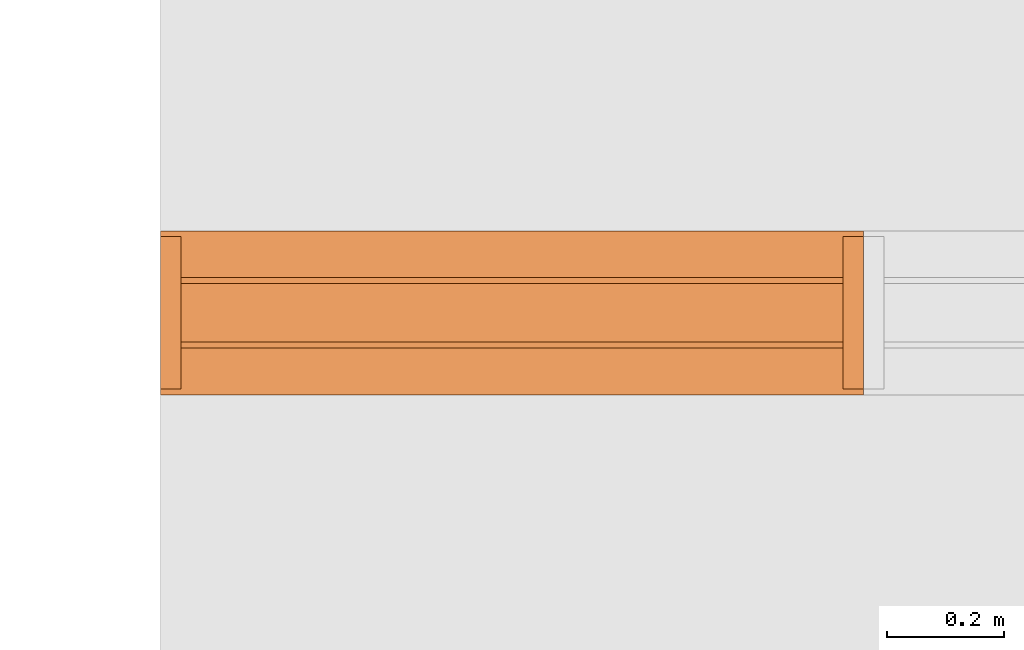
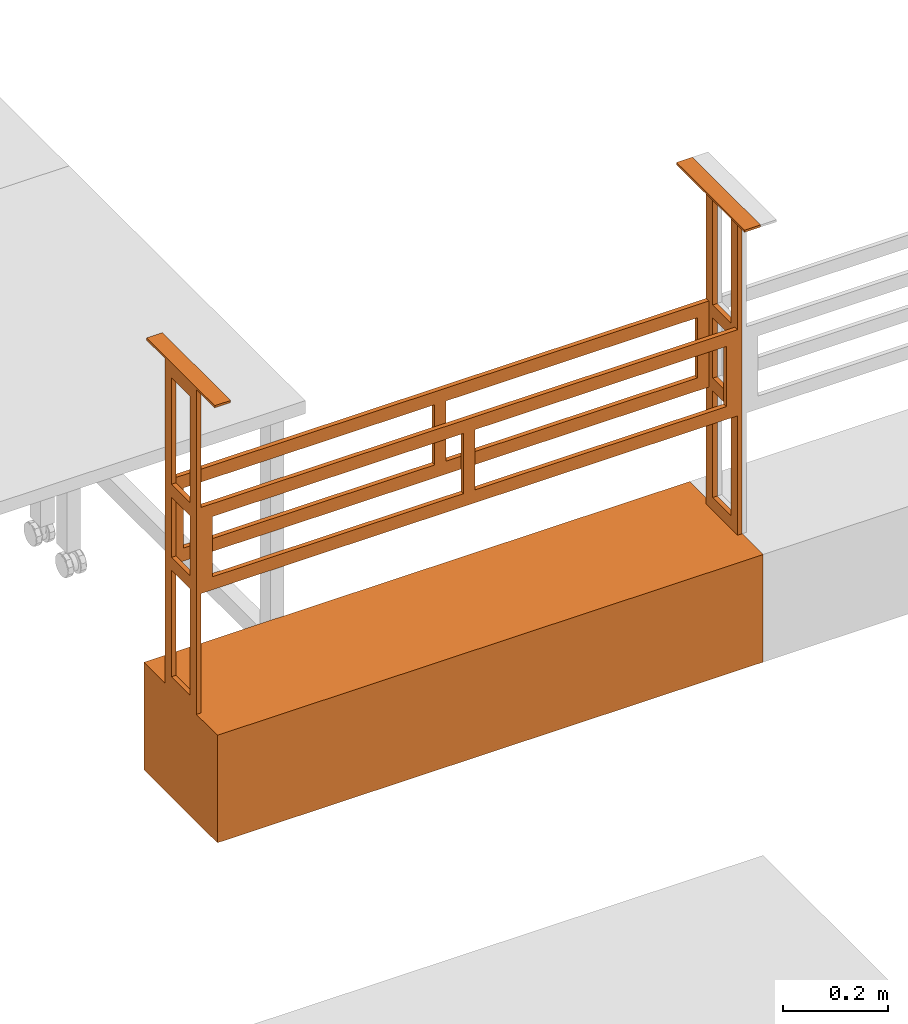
# One storey, part 12 of 32: 1 proxy.
"""IFC2X3 building model written with IfcOpenShell, lengths in metres."""

import ifcopenshell
import ifcopenshell.guid

model = None  # the IFC model being written
_history = None  # IfcOwnerHistory: only IFC2X3 demands one
_inside = {}  # id of a spatial element -> (the spatial element, [elements in it])
_under = {}  # id of a project, library or spatial element -> (it, [spatial elements below it])
_declared = {}  # id of a project -> (the project, [libraries it declares])
_typed = {}  # id of a type object -> (the type object, [elements of that type])
_made_of = {}  # id of a material, layer set ... -> (it, [elements and type objects made of it])


def new_model(schema):
    """Start an empty IFC model of exactly this schema.

    Asked for "IFC4X3", IfcOpenShell would pick the latest addendum, in which some entities
    have other attributes; the version numbers below select the first issue.
    IFC2X3 requires an IfcOwnerHistory on every rooted entity: one is made here for all.
    """
    global model, _history
    if schema == "IFC4X3":
        model = ifcopenshell.file(schema_version=(4, 3, 0, 0))
    else:
        model = ifcopenshell.file(schema=schema)
    _inside.clear()
    _under.clear()
    _declared.clear()
    _typed.clear()
    _made_of.clear()
    _history = None
    if model.schema == "IFC2X3":
        org = make("IfcOrganization", Name="unknown")
        user = make(
            "IfcPersonAndOrganization",
            ThePerson=make("IfcPerson", FamilyName="unknown"),
            TheOrganization=org,
        )
        app = make(
            "IfcApplication",
            ApplicationDeveloper=org,
            Version="unknown",
            ApplicationFullName="unknown",
            ApplicationIdentifier="unknown",
        )
        _history = make(
            "IfcOwnerHistory",
            OwningUser=user,
            OwningApplication=app,
            ChangeAction="ADDED",
            CreationDate=0,
        )
    return model


def make(cls, **values):
    """One entity of the class cls with the attributes given. An attribute that is None is left unset."""
    return model.create_entity(
        cls, **{name: value for name, value in values.items() if value is not None}
    )


def entity(cls, *values):
    """Any entity or typed value of the class cls, its attributes in the order of the schema. None: left unset."""
    e = model.create_entity(cls)
    for i, value in enumerate(values):
        if value is not None:
            e[i] = value
    return e


def rooted(cls, **values):
    """An entity with a GlobalId (a new one), such as an element, a storey or a relation."""
    return make(cls, GlobalId=ifcopenshell.guid.new(), OwnerHistory=_history, **values)


def si_unit(unit_type, name, prefix=None):
    """IfcSIUnit, for example si_unit("LENGTHUNIT", "METRE", prefix="MILLI")."""
    return make("IfcSIUnit", UnitType=unit_type, Prefix=prefix, Name=name)


def converted_unit(unit_type, name, factor, base, dimensions=None, offset=None):
    """IfcConversionBasedUnit, such as the inch: factor (a typed value) times the base unit."""
    return make(
        "IfcConversionBasedUnit"
        if offset is None
        else "IfcConversionBasedUnitWithOffset",
        ConversionOffset=offset,
        Dimensions=None
        if dimensions is None
        else entity("IfcDimensionalExponents", *dimensions),
        UnitType=unit_type,
        Name=name,
        ConversionFactor=make(
            "IfcMeasureWithUnit", ValueComponent=factor, UnitComponent=base
        ),
    )


def derived_unit(unit_type, elements):
    """IfcDerivedUnit: a product of units, each with its exponent."""
    return make(
        "IfcDerivedUnit",
        Elements=[
            make("IfcDerivedUnitElement", Unit=unit, Exponent=power)
            for unit, power in elements
        ],
        UnitType=unit_type,
    )


def assignment(units):
    """IfcUnitAssignment: the units of a project."""
    return None if units is None else make("IfcUnitAssignment", Units=units)


def point(xyz):
    """IfcCartesianPoint."""
    return None if xyz is None else make("IfcCartesianPoint", Coordinates=xyz)


def direction(xyz):
    """IfcDirection."""
    return None if xyz is None else make("IfcDirection", DirectionRatios=xyz)


def frame(location, z_axis=None, x_axis=None):
    """IfcAxis2Placement3D, a coordinate frame: its origin and axes. An axis left out is left unset."""
    return make(
        "IfcAxis2Placement3D",
        Location=point(location),
        Axis=direction(z_axis),
        RefDirection=direction(x_axis),
    )


def origin():
    """The frame at (0, 0, 0) with its axes left unset."""
    return frame((0.0, 0.0, 0.0))


def place(relative_to, where):
    """IfcLocalPlacement: puts the frame where relative to a parent placement (None: the world)."""
    return make(
        "IfcLocalPlacement", PlacementRelTo=relative_to, RelativePlacement=where
    )


def context(
    kind, dimensions, precision=None, world=None, true_north=None, identifier=None
):
    """IfcGeometricRepresentationContext, for example the 3D "Model" context."""
    return make(
        "IfcGeometricRepresentationContext",
        ContextIdentifier=identifier,
        ContextType=kind,
        CoordinateSpaceDimension=dimensions,
        Precision=precision,
        WorldCoordinateSystem=world,
        TrueNorth=true_north,
    )


def subcontext(parent, identifier, kind, view, scale=None):
    """IfcGeometricRepresentationSubContext, for example "Body" below "Model"."""
    return make(
        "IfcGeometricRepresentationSubContext",
        ContextIdentifier=identifier,
        ContextType=kind,
        ParentContext=parent,
        TargetScale=scale,
        TargetView=view,
    )


def project(units=None, contexts=None):
    """IfcProject with its units and contexts."""
    return rooted(
        "IfcProject",
        Name="project",
        RepresentationContexts=contexts,
        UnitsInContext=assignment(units),
    )


def spatial(cls, under=None, at=None, **own):
    """A site, building, storey or space (cls), placed at a placement, below another one or the project."""
    s = rooted(cls, ObjectPlacement=at, **own)
    if under is not None:
        _under.setdefault(under.id(), (under, []))[1].append(s)
    return s


def faces_of(points, faces, orient=None, outer=None):
    """IfcFace entities. A face is a list of loops; a loop is a list of indices into points, from 0.

    orient and outer hold one flag for each loop. By default every Orientation is true, the
    first loop of a face is its IfcFaceOuterBound and the others are IfcFaceBound.
    """
    made = []
    for i, loops in enumerate(faces):
        bounds = []
        for j, loop in enumerate(loops):
            is_outer = j == 0 if outer is None else outer[i][j]
            bounds.append(
                make(
                    "IfcFaceOuterBound" if is_outer else "IfcFaceBound",
                    Bound=make("IfcPolyLoop", Polygon=[points[k] for k in loop]),
                    Orientation=True if orient is None else orient[i][j],
                )
            )
        made.append(make("IfcFace", Bounds=bounds))
    return made


def faceted_brep(points, faces, orient=None, outer=None, voids=None):
    """IfcFacetedBrep: a solid bounded by flat faces; with voids (closed shells), ...WithVoids."""
    shared = [point(p) for p in points]
    hull = make("IfcClosedShell", CfsFaces=faces_of(shared, faces, orient, outer))
    if voids is None:
        return make("IfcFacetedBrep", Outer=hull)
    return make(
        "IfcFacetedBrepWithVoids",
        Outer=hull,
        Voids=[
            make(cls, CfsFaces=faces_of(shared, fs, o, b)) for cls, fs, o, b in voids
        ],
    )


def shape(context_of_items, identifier, shape_type, items):
    """IfcShapeRepresentation: the items that make up one representation, for example the "Body"."""
    return make(
        "IfcShapeRepresentation",
        ContextOfItems=context_of_items,
        RepresentationIdentifier=identifier,
        RepresentationType=shape_type,
        Items=items,
    )


def source(mapping_origin, context_of_items, identifier, shape_type, items):
    """IfcRepresentationMap: a shape defined once, which mapped items show again and again."""
    return make(
        "IfcRepresentationMap",
        MappingOrigin=mapping_origin,
        MappedRepresentation=shape(context_of_items, identifier, shape_type, items),
    )


def transform(
    local_origin,
    x_axis=None,
    y_axis=None,
    z_axis=None,
    scale=None,
    scale2=None,
    scale3=None,
    uniform=True,
):
    """IfcCartesianTransformationOperator3D, or its non-uniform kind. x_axis, y_axis, z_axis: its Axis1, 2, 3."""
    if uniform:
        return make(
            "IfcCartesianTransformationOperator3D",
            Axis1=direction(x_axis),
            Axis2=direction(y_axis),
            LocalOrigin=point(local_origin),
            Scale=scale,
            Axis3=direction(z_axis),
        )
    return make(
        "IfcCartesianTransformationOperator3DnonUniform",
        Axis1=direction(x_axis),
        Axis2=direction(y_axis),
        LocalOrigin=point(local_origin),
        Scale=scale,
        Axis3=direction(z_axis),
        Scale2=scale2,
        Scale3=scale3,
    )


def mapped(mapping_source, mapping_target):
    """IfcMappedItem: shows the shape of a source again, moved by a transform."""
    return make(
        "IfcMappedItem", MappingSource=mapping_source, MappingTarget=mapping_target
    )


def material(Name=None, Category=None):
    """IfcMaterial."""
    return make("IfcMaterial", Name=Name, Category=Category)


def material_list(materials):
    """IfcMaterialList."""
    return make("IfcMaterialList", Materials=materials)


def made_of(thing, what):
    """Note that an element or type object is made of a material, layer set ...; save() writes the relation."""
    if what is not None:
        _made_of.setdefault(what.id(), (what, []))[1].append(thing)
    return thing


def type_object(cls, material=None, **own):
    """A type object (cls), such as IfcWallType, which elements share."""
    return made_of(rooted(cls, **own), material)


def type_shapes(of_type, sources):
    """Give a type object the sources (RepresentationMaps) that its elements show as mapped items."""
    of_type.RepresentationMaps = sources


def element(
    cls,
    number,
    at=None,
    inside=None,
    cuts=None,
    type_object=None,
    material=None,
    context=None,
    identifier="Body",
    shape_type=None,
    held_by="IfcProductDefinitionShape",
    body=None,
    shapes=None,
    **own,
):
    """One element of the class cls, such as IfcWall. Its Tag is "e" and its number.

    at: its placement. inside: the storey or other place that contains it. cuts: it is an
    opening in that element (IfcRelVoidsElement). A single representation is given by context,
    identifier, shape_type and body (its items); several are given by shapes. held_by: the class
    of the entity that holds the representations. save() writes the other relations.
    """
    e = rooted(cls, Tag="e%d" % number, ObjectPlacement=at, **own)
    if body is not None:
        shapes = [shape(context, identifier, shape_type, body)]
    if shapes is not None:
        e.Representation = make(held_by, Representations=shapes)
    if inside is not None:
        _inside.setdefault(inside.id(), (inside, []))[1].append(e)
    if cuts is not None:
        rooted(
            "IfcRelVoidsElement", RelatingBuildingElement=cuts, RelatedOpeningElement=e
        )
    if type_object is not None:
        _typed.setdefault(type_object.id(), (type_object, []))[1].append(e)
    return made_of(e, material)


def aggregate(whole, parts):
    """IfcRelAggregates: a whole, such as a stair, and the parts it consists of."""
    return rooted("IfcRelAggregates", RelatingObject=whole, RelatedObjects=parts)


def save(model, path):
    """Write the relations noted so far, then the file.

    IfcRelAggregates (storeys below a building ...), IfcRelContainedInSpatialStructure (elements
    in a storey), IfcRelDefinesByType, IfcRelAssociatesMaterial and IfcRelDeclares: one each for
    every whole, place, type object, material and project.
    """
    for whole, parts in _under.values():
        aggregate(whole, parts)
    for where, things in _inside.values():
        rooted(
            "IfcRelContainedInSpatialStructure",
            RelatedElements=things,
            RelatingStructure=where,
        )
    for kind, things in _typed.values():
        rooted("IfcRelDefinesByType", RelatedObjects=things, RelatingType=kind)
    for what, things in _made_of.values():
        rooted("IfcRelAssociatesMaterial", RelatedObjects=things, RelatingMaterial=what)
    for by, libraries in _declared.values():
        rooted("IfcRelDeclares", RelatingContext=by, RelatedDefinitions=libraries)
    model.write(path)


model = new_model("IFC2X3")

# Units and contexts
model_context = context("Model", 3, precision=1e-05, world=origin(), true_north=direction((6.12303176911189e-17, 1.0)))
body_context = subcontext(model_context, "Body", "Model", "MODEL_VIEW")
ifc_project = project(units=[si_unit("LENGTHUNIT", "METRE"), si_unit("AREAUNIT", "SQUARE_METRE"), si_unit("VOLUMEUNIT", "CUBIC_METRE"), converted_unit("PLANEANGLEUNIT", "DEGREE", entity("IfcRatioMeasure", 0.0174532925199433), si_unit("PLANEANGLEUNIT", "RADIAN"), dimensions=[0, 0, 0, 0, 0, 0, 0]), si_unit("MASSUNIT", "GRAM", prefix="KILO"), derived_unit("MASSDENSITYUNIT", [(si_unit("MASSUNIT", "GRAM", prefix="KILO"), 1), (si_unit("LENGTHUNIT", "METRE"), -3)]), derived_unit("MOMENTOFINERTIAUNIT", [(si_unit("LENGTHUNIT", "METRE"), 4)]), si_unit("TIMEUNIT", "SECOND"), si_unit("FREQUENCYUNIT", "HERTZ"), si_unit("THERMODYNAMICTEMPERATUREUNIT", "DEGREE_CELSIUS"), derived_unit("THERMALTRANSMITTANCEUNIT", [(si_unit("MASSUNIT", "GRAM", prefix="KILO"), 1), (si_unit("THERMODYNAMICTEMPERATUREUNIT", "KELVIN"), -1), (si_unit("TIMEUNIT", "SECOND"), -3)]), derived_unit("VOLUMETRICFLOWRATEUNIT", [(si_unit("LENGTHUNIT", "METRE"), 3), (si_unit("TIMEUNIT", "SECOND"), -1)]), si_unit("ELECTRICCURRENTUNIT", "AMPERE"), si_unit("ELECTRICVOLTAGEUNIT", "VOLT"), si_unit("POWERUNIT", "WATT"), si_unit("FORCEUNIT", "NEWTON", prefix="KILO"), si_unit("ILLUMINANCEUNIT", "LUX"), si_unit("LUMINOUSFLUXUNIT", "LUMEN"), si_unit("LUMINOUSINTENSITYUNIT", "CANDELA"), derived_unit("USERDEFINED", [(si_unit("MASSUNIT", "GRAM", prefix="KILO"), -1), (si_unit("LENGTHUNIT", "METRE"), -2), (si_unit("TIMEUNIT", "SECOND"), 3), (si_unit("LUMINOUSFLUXUNIT", "LUMEN"), 1)]), derived_unit("LINEARVELOCITYUNIT", [(si_unit("LENGTHUNIT", "METRE"), 1), (si_unit("TIMEUNIT", "SECOND"), -1)]), si_unit("PRESSUREUNIT", "PASCAL"), derived_unit("USERDEFINED", [(si_unit("LENGTHUNIT", "METRE"), -2), (si_unit("MASSUNIT", "GRAM", prefix="KILO"), 1), (si_unit("TIMEUNIT", "SECOND"), -2)]), derived_unit("LINEARFORCEUNIT", [(si_unit("MASSUNIT", "GRAM", prefix="KILO"), 1), (si_unit("LENGTHUNIT", "METRE"), 1), (si_unit("TIMEUNIT", "SECOND"), -2), (si_unit("LENGTHUNIT", "METRE"), -1)]), derived_unit("PLANARFORCEUNIT", [(si_unit("MASSUNIT", "GRAM", prefix="KILO"), 1), (si_unit("LENGTHUNIT", "METRE"), 1), (si_unit("TIMEUNIT", "SECOND"), -2), (si_unit("LENGTHUNIT", "METRE"), -2)])], contexts=[model_context])

# Site, building, storey
site_placement = place(None, origin())
site = spatial("IfcSite", under=ifc_project, at=site_placement, Name="Default", CompositionType="ELEMENT")
building_placement = place(site_placement, origin())
building = spatial("IfcBuilding", under=site, at=building_placement, CompositionType="ELEMENT")
storey_placement = place(building_placement, origin())
storey = spatial("IfcBuildingStorey", under=building, at=storey_placement, Name="00 EG", CompositionType="ELEMENT", Elevation=0.0)

# Proxy
ifc_material = material(Name="dh_Weiß")
ifc_material_list = material_list([ifc_material, ifc_material])
building_element_proxy_type = type_object("IfcBuildingElementProxyType", Name="dh_Doppel_ MEK:DMEK 120", PredefinedType="NOTDEFINED", material=ifc_material_list)
shared_shape = source(origin(), body_context, "Body", "Brep", [
    faceted_brep([(0.0100000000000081, 0.2, 1.00500000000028), (0.0100000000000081, 0.0800000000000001, 1.00500000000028), (0.0100000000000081, 0.0800000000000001, 0.727500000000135), (0.0100000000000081, 0.0899999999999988, 0.727500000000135), (0.0100000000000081, 0.0899999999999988, 0.527500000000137), (0.0100000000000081, 0.0800000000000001, 0.527500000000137), (0.0100000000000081, 0.0800000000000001, 0.249999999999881), (0.0100000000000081, 0.2, 0.249999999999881), (0.0100000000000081, 0.2, 0.527500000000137), (0.0100000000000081, 0.189999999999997, 0.527500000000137), (0.0100000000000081, 0.189999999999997, 0.727500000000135), (0.0100000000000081, 0.2, 0.727500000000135), (0.0100000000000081, 0.175, 0.975000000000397), (0.0100000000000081, 0.175, 0.727500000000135), (0.0100000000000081, 0.105, 0.727500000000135), (0.0100000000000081, 0.105, 0.975000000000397), (0.0100000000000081, 0.175, 0.527500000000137), (0.0100000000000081, 0.175, 0.279999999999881), (0.0100000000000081, 0.105, 0.27999999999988), (0.0100000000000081, 0.105, 0.527500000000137), (0.0100000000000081, 0.175000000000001, 0.697500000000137), (0.0100000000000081, 0.175000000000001, 0.557500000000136), (0.0100000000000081, 0.105000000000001, 0.557500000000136), (0.0100000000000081, 0.105000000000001, 0.697500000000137), (0.0, 0.2, 1.00500000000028), (0.0, 0.2, 0.249999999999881), (0.0, 0.0800000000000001, 0.249999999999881), (0.0, 0.0800000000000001, 1.00500000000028), (0.0, 0.175, 0.975000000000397), (0.0, 0.105, 0.975000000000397), (0.0, 0.105, 0.727500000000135), (0.0, 0.175, 0.727500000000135), (0.0, 0.175, 0.527500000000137), (0.0, 0.105, 0.527500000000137), (0.0, 0.105, 0.27999999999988), (0.0, 0.175, 0.279999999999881), (0.0, 0.175000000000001, 0.697500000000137), (0.0, 0.105000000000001, 0.697500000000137), (0.0, 0.105000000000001, 0.557500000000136), (0.0, 0.175000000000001, 0.557500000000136), (1.19000000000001, 0.0800000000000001, 0.527500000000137), (1.19000000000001, 0.0800000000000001, 0.249999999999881), (1.20000000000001, 0.0800000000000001, 0.249999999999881), (1.20000000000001, 0.0800000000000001, 1.00500000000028), (1.19000000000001, 0.0800000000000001, 1.00500000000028), (1.19000000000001, 0.0800000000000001, 0.727500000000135), (0.61250000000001, 0.0800000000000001, 0.697500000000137), (1.16500000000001, 0.0800000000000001, 0.697500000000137), (1.16500000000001, 0.0800000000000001, 0.557500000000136), (0.61250000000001, 0.0800000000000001, 0.557500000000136), (0.0350000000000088, 0.0800000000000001, 0.697500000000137), (0.587500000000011, 0.0800000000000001, 0.697500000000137), (0.587500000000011, 0.0800000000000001, 0.557500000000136), (0.0350000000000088, 0.0800000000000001, 0.557500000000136), (1.19000000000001, 0.2, 0.727500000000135), (1.19000000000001, 0.2, 1.00500000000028), (1.20000000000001, 0.2, 1.00500000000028), (1.20000000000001, 0.2, 0.249999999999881), (1.19000000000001, 0.2, 0.249999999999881), (1.19000000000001, 0.2, 0.527500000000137), (0.0350000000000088, 0.2, 0.697500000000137), (0.0350000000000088, 0.2, 0.557500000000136), (0.587500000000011, 0.2, 0.557500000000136), (0.587500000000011, 0.2, 0.697500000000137), (0.61250000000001, 0.2, 0.697500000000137), (0.61250000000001, 0.2, 0.557500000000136), (1.16500000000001, 0.2, 0.557500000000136), (1.16500000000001, 0.2, 0.697500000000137), (1.19000000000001, 0.0899999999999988, 0.727500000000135), (1.19000000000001, 0.0899999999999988, 0.527500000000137), (0.61250000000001, 0.0899999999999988, 0.697500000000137), (0.61250000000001, 0.0899999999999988, 0.557500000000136), (1.16500000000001, 0.0899999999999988, 0.557500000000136), (1.16500000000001, 0.0899999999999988, 0.697500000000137), (0.0350000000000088, 0.0899999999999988, 0.697500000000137), (0.0350000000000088, 0.0899999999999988, 0.557500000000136), (0.587500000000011, 0.0899999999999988, 0.557500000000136), (0.587500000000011, 0.0899999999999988, 0.697500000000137), (1.19000000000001, 0.189999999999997, 0.527500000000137), (1.19000000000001, 0.189999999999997, 0.727500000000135), (0.0350000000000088, 0.189999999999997, 0.697500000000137), (0.587500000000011, 0.189999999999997, 0.697500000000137), (0.587500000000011, 0.189999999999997, 0.557500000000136), (0.0350000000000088, 0.189999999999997, 0.557500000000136), (0.61250000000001, 0.189999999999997, 0.697500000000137), (1.16500000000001, 0.189999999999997, 0.697500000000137), (1.16500000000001, 0.189999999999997, 0.557500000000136), (0.61250000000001, 0.189999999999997, 0.557500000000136), (1.20000000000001, 0.175, 0.975000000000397), (1.20000000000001, 0.175, 0.727500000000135), (1.20000000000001, 0.105, 0.727500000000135), (1.20000000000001, 0.105, 0.975000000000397), (1.20000000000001, 0.175000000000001, 0.697500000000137), (1.20000000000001, 0.175000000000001, 0.557500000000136), (1.20000000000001, 0.105000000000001, 0.557500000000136), (1.20000000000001, 0.105000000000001, 0.697500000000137), (1.20000000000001, 0.105, 0.27999999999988), (1.20000000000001, 0.105, 0.527500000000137), (1.20000000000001, 0.175, 0.527500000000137), (1.20000000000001, 0.175, 0.279999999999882), (1.19000000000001, 0.175, 0.975000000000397), (1.19000000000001, 0.105, 0.975000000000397), (1.19000000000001, 0.105, 0.727500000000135), (1.19000000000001, 0.175, 0.727500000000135), (1.19000000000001, 0.175000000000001, 0.697500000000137), (1.19000000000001, 0.105000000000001, 0.697500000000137), (1.19000000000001, 0.105000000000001, 0.557500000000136), (1.19000000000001, 0.175000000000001, 0.557500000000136), (1.19000000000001, 0.105, 0.27999999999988), (1.19000000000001, 0.175, 0.279999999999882), (1.19000000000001, 0.175, 0.527500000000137), (1.19000000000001, 0.105, 0.527500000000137)], [[[0, 1, 2, 3, 4, 5, 6, 7, 8, 9, 10, 11], [12, 13, 14, 15], [16, 17, 18, 19], [20, 21, 22, 23]], [[24, 25, 26, 27], [28, 29, 30, 31], [32, 33, 34, 35], [36, 37, 38, 39]], [[1, 0, 24, 27]], [[27, 26, 6, 5, 40, 41, 42, 43, 44, 45, 2, 1], [46, 47, 48, 49], [50, 51, 52, 53]], [[7, 6, 26, 25]], [[25, 24, 0, 11, 54, 55, 56, 57, 58, 59, 8, 7], [60, 61, 62, 63], [64, 65, 66, 67]], [[13, 12, 28, 31]], [[14, 13, 31, 30]], [[15, 14, 30, 29]], [[12, 15, 29, 28]], [[17, 16, 32, 35]], [[18, 17, 35, 34]], [[19, 18, 34, 33]], [[16, 19, 33, 32]], [[21, 20, 36, 39]], [[22, 21, 39, 38]], [[23, 22, 38, 37]], [[20, 23, 37, 36]], [[3, 68, 69, 4], [70, 71, 72, 73], [74, 75, 76, 77]], [[40, 5, 4, 69]], [[2, 45, 68, 3]], [[47, 46, 70, 73]], [[48, 47, 73, 72]], [[49, 48, 72, 71]], [[46, 49, 71, 70]], [[51, 50, 74, 77]], [[52, 51, 77, 76]], [[53, 52, 76, 75]], [[50, 53, 75, 74]], [[9, 78, 79, 10], [80, 81, 82, 83], [84, 85, 86, 87]], [[78, 9, 8, 59]], [[10, 79, 54, 11]], [[81, 80, 60, 63]], [[82, 81, 63, 62]], [[83, 82, 62, 61]], [[80, 83, 61, 60]], [[85, 84, 64, 67]], [[86, 85, 67, 66]], [[87, 86, 66, 65]], [[84, 87, 65, 64]], [[42, 57, 56, 43], [88, 89, 90, 91], [92, 93, 94, 95], [96, 97, 98, 99]], [[44, 55, 54, 79, 78, 59, 58, 41, 40, 69, 68, 45], [100, 101, 102, 103], [104, 105, 106, 107], [108, 109, 110, 111]], [[57, 42, 41, 58]], [[43, 56, 55, 44]], [[89, 88, 100, 103]], [[90, 89, 103, 102]], [[91, 90, 102, 101]], [[88, 91, 101, 100]], [[93, 92, 104, 107]], [[94, 93, 107, 106]], [[95, 94, 106, 105]], [[92, 95, 105, 104]], [[97, 96, 108, 111]], [[98, 97, 111, 110]], [[99, 98, 110, 109]], [[96, 99, 109, 108]]]),
    faceted_brep([(1.165, 0.00999999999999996, 1.01000000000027), (1.2, 0.00999999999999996, 1.01000000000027), (1.2, 0.27, 1.01000000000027), (1.165, 0.27, 1.01000000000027), (1.165, 0.00999999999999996, 1.00500000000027), (1.2, 0.00999999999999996, 1.00500000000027), (1.2, 0.27, 1.00500000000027), (1.165, 0.27, 1.00500000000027)], [[[0, 1, 2, 3]], [[1, 0, 4, 5]], [[2, 1, 5, 6]], [[3, 2, 6, 7]], [[0, 3, 7, 4]], [[4, 7, 6, 5]]]),
    faceted_brep([(0.0349999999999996, 0.270000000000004, 1.00500000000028), (0.0349999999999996, 0.0100000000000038, 1.00500000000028), (0.0, 0.0100000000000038, 1.00500000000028), (0.0, 0.270000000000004, 1.00500000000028), (0.0, 0.270000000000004, 1.01000000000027), (0.0349999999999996, 0.270000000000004, 1.01000000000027), (0.0, 0.0100000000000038, 1.01000000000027), (0.0349999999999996, 0.0100000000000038, 1.01000000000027)], [[[0, 1, 2, 3]], [[4, 5, 0, 3]], [[6, 4, 3, 2]], [[7, 6, 2, 1]], [[5, 7, 1, 0]], [[5, 4, 6, 7]]]),
    faceted_brep([(0.0, 0.2, 0.249999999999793), (0.0100000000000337, 0.2, 0.249999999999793), (1.19000000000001, 0.2, 0.249999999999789), (1.2, 0.2, 0.249999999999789), (1.2, 0.28, 0.249999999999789), (0.0, 0.28, 0.249999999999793), (0.0, 0.2, 0.244999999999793), (0.0, 0.28, 0.244999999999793), (1.2, 0.28, 0.244999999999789), (1.2, 0.2, 0.244999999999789), (1.19000000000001, 0.2, 0.244999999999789), (0.0100000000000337, 0.2, 0.244999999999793)], [[[0, 1, 2, 3, 4, 5]], [[6, 7, 8, 9, 10, 11]], [[0, 5, 7, 6]], [[5, 4, 8, 7]], [[4, 3, 9, 8]], [[3, 2, 10, 9]], [[2, 1, 11, 10]], [[1, 0, 6, 11]]]),
    faceted_brep([(1.20000000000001, 0.280000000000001, 0.245000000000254), (1.20000000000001, 0.200000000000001, 0.245000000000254), (1.20000000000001, 0.200000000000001, 0.00500000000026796), (1.20000000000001, 0.280000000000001, 0.00500000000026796), (0.0, 0.280000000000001, 0.245000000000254), (0.0, 0.280000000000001, 0.00500000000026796), (0.0, 0.200000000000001, 0.00500000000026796), (0.0, 0.200000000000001, 0.245000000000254)], [[[0, 1, 2, 3]], [[4, 5, 6, 7]], [[0, 3, 5, 4]], [[3, 2, 6, 5]], [[2, 1, 7, 6]], [[1, 0, 4, 7]]]),
    faceted_brep([(1.20000000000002, 0.08, 0.249999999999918), (1.20000000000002, 0.2, 0.249999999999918), (1.19000000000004, 0.2, 0.249999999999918), (1.19000000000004, 0.08, 0.249999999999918), (1.20000000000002, 0.08, 0.00499999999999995), (1.19000000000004, 0.08, 0.00499999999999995), (1.19000000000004, 0.2, 0.00499999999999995), (1.20000000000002, 0.2, 0.00499999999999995)], [[[0, 1, 2, 3]], [[4, 5, 6, 7]], [[1, 0, 4, 7]], [[2, 1, 7, 6]], [[3, 2, 6, 5]], [[0, 3, 5, 4]]]),
    faceted_brep([(0.0100000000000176, 0.2, 0.249999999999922), (0.0100000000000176, 0.08, 0.249999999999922), (0.0100000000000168, 0.08, 0.00500000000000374), (0.0100000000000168, 0.2, 0.00500000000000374), (0.0, 0.2, 0.249999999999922), (0.0, 0.2, 0.00500000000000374), (0.0, 0.08, 0.249999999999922), (0.0, 0.08, 0.00500000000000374)], [[[0, 1, 2, 3]], [[4, 0, 3, 5]], [[6, 4, 5, 7]], [[1, 6, 7, 2]], [[2, 7, 5, 3]], [[1, 0, 4, 6]]]),
    faceted_brep([(1.19000000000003, 0.08, 0.249999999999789), (1.19000000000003, 0.2, 0.249999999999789), (0.0100000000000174, 0.2, 0.249999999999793), (0.0100000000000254, 0.08, 0.249999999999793), (1.19000000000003, 0.08, 0.244999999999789), (0.0100000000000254, 0.08, 0.244999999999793), (0.0100000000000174, 0.2, 0.244999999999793), (1.19000000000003, 0.2, 0.244999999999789)], [[[0, 1, 2, 3]], [[4, 5, 6, 7]], [[1, 0, 4, 7]], [[2, 1, 7, 6]], [[3, 2, 6, 5]], [[0, 3, 5, 4]]]),
    faceted_brep([(0.0, 0.0, 0.0), (0.0, 0.0799999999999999, 0.0), (0.0, 0.28, 0.0), (1.20000000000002, 0.28, 0.0), (1.20000000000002, 0.0799999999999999, 0.0), (1.20000000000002, 0.0, 0.0), (0.0, 0.0, 0.00500000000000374), (1.20000000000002, 0.0, 0.00499999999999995), (1.20000000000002, 0.0799999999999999, 0.00499999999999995), (1.20000000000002, 0.28, 0.00499999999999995), (0.0, 0.28, 0.00500000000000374), (0.0, 0.0799999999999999, 0.00500000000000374)], [[[0, 1, 2, 3, 4, 5]], [[6, 7, 8, 9, 10, 11]], [[7, 6, 0, 5]], [[8, 7, 5, 4]], [[9, 8, 4, 3]], [[10, 9, 3, 2]], [[11, 10, 2, 1]], [[6, 11, 1, 0]]]),
    faceted_brep([(0.0, 0.08, 0.249999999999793), (0.0, 0.0, 0.249999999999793), (1.20000000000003, 0.0, 0.249999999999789), (1.20000000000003, 0.08, 0.249999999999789), (1.19000000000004, 0.08, 0.249999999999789), (0.0100000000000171, 0.08, 0.249999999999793), (0.0, 0.08, 0.244999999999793), (0.010000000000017, 0.08, 0.244999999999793), (1.19000000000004, 0.08, 0.244999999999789), (1.20000000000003, 0.08, 0.244999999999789), (1.20000000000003, 0.0, 0.244999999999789), (0.0, 0.0, 0.244999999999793)], [[[0, 1, 2, 3, 4, 5]], [[6, 7, 8, 9, 10, 11]], [[1, 0, 6, 11]], [[2, 1, 11, 10]], [[3, 2, 10, 9]], [[4, 3, 9, 8]], [[5, 4, 8, 7]], [[0, 5, 7, 6]]]),
    faceted_brep([(1.20000000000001, 0.0, 0.245000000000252), (1.20000000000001, 0.0, 0.00500000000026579), (1.20000000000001, 0.08, 0.00500000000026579), (1.20000000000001, 0.08, 0.245000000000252), (0.0, 0.0, 0.245000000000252), (0.0, 0.08, 0.245000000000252), (0.0, 0.08, 0.00500000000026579), (0.0, 0.0, 0.00500000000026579)], [[[0, 1, 2, 3]], [[4, 5, 6, 7]], [[1, 0, 4, 7]], [[2, 1, 7, 6]], [[3, 2, 6, 5]], [[0, 3, 5, 4]]]),
])
type_shapes(building_element_proxy_type, [shared_shape])
proxy_placement = place(storey_placement, frame((11.0679999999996, 17.0641499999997, 2.18999999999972)))
element("IfcBuildingElementProxy", 1, at=proxy_placement, inside=storey, type_object=building_element_proxy_type, material=ifc_material, Name="dh_Doppel_ MEK:DMEK 120", ObjectType="dh_Doppel_ MEK:DMEK 120", context=body_context, shape_type="MappedRepresentation", body=[
    mapped(shared_shape, transform((0.0, 0.0, 0.0), scale=1.0)),
])

save(model, "model.ifc")
